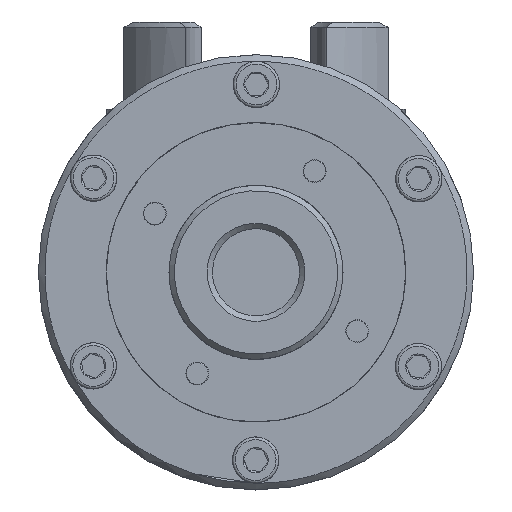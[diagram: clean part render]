
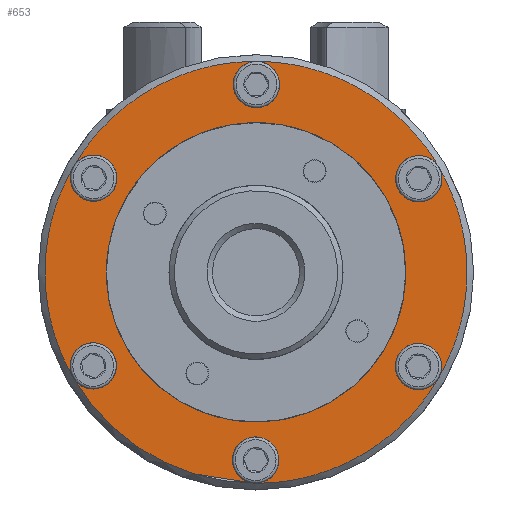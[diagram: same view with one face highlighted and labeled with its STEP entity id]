
A CAD part, left-side view. The second image highlights one B-rep face of the part: STEP entity #653.
In plain terms, the highlighted planar face has unit normal (-1, 0, 0).
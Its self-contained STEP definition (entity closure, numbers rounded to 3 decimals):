
#653 = ADVANCED_FACE( '', ( #1336, #1337 ), #1338, .F. );
#1336 = FACE_OUTER_BOUND( '', #2425, .T. );
#1337 = FACE_BOUND( '', #2426, .T. );
#1338 = PLANE( '', #2427 );
#2425 = EDGE_LOOP( '', ( #3724, #3725, #3726, #3727, #3728, #3729, #3730, #3731, #3732, #3733, #3734, #3735 ) );
#2426 = EDGE_LOOP( '', ( #3736 ) );
#2427 = AXIS2_PLACEMENT_3D( '', #3737, #3738, #3739 );
#3724 = ORIENTED_EDGE( '', *, *, #6264, .T. );
#3725 = ORIENTED_EDGE( '', *, *, #6257, .T. );
#3726 = ORIENTED_EDGE( '', *, *, #6265, .T. );
#3727 = ORIENTED_EDGE( '', *, *, #6256, .T. );
#3728 = ORIENTED_EDGE( '', *, *, #6262, .T. );
#3729 = ORIENTED_EDGE( '', *, *, #6261, .T. );
#3730 = ORIENTED_EDGE( '', *, *, #6266, .T. );
#3731 = ORIENTED_EDGE( '', *, *, #6260, .T. );
#3732 = ORIENTED_EDGE( '', *, *, #6267, .T. );
#3733 = ORIENTED_EDGE( '', *, *, #6259, .T. );
#3734 = ORIENTED_EDGE( '', *, *, #6268, .T. );
#3735 = ORIENTED_EDGE( '', *, *, #6258, .T. );
#3736 = ORIENTED_EDGE( '', *, *, #6254, .F. );
#3737 = CARTESIAN_POINT( '', ( -13.499, 40., 0. ) );
#3738 = DIRECTION( '', ( 1., 0., 0. ) );
#3739 = DIRECTION( '', ( 0., 1., 0. ) );
#6254 = EDGE_CURVE( '', #7152, #7152, #7153, .F. );
#6256 = EDGE_CURVE( '', #7156, #7157, #7158, .F. );
#6257 = EDGE_CURVE( '', #7159, #7156, #7160, .F. );
#6258 = EDGE_CURVE( '', #7161, #7159, #7162, .F. );
#6259 = EDGE_CURVE( '', #7163, #7161, #7164, .F. );
#6260 = EDGE_CURVE( '', #7165, #7163, #7166, .F. );
#6261 = EDGE_CURVE( '', #7157, #7165, #7167, .F. );
#6262 = EDGE_CURVE( '', #7157, #7157, #7168, .T. );
#6264 = EDGE_CURVE( '', #7159, #7159, #7171, .T. );
#6265 = EDGE_CURVE( '', #7156, #7156, #7172, .T. );
#6266 = EDGE_CURVE( '', #7165, #7165, #7173, .T. );
#6267 = EDGE_CURVE( '', #7163, #7163, #7174, .T. );
#6268 = EDGE_CURVE( '', #7161, #7161, #7175, .T. );
#7152 = VERTEX_POINT( '', #8722 );
#7153 = CIRCLE( '', #8723, 27.5 );
#7156 = VERTEX_POINT( '', #8726 );
#7157 = VERTEX_POINT( '', #8727 );
#7158 = CIRCLE( '', #8728, 38.75 );
#7159 = VERTEX_POINT( '', #8729 );
#7160 = CIRCLE( '', #8730, 38.75 );
#7161 = VERTEX_POINT( '', #8731 );
#7162 = CIRCLE( '', #8732, 38.75 );
#7163 = VERTEX_POINT( '', #8733 );
#7164 = CIRCLE( '', #8734, 38.75 );
#7165 = VERTEX_POINT( '', #8735 );
#7166 = CIRCLE( '', #8736, 38.75 );
#7167 = CIRCLE( '', #8737, 38.75 );
#7168 = CIRCLE( '', #8738, 4.25 );
#7171 = CIRCLE( '', #8741, 4.25 );
#7172 = CIRCLE( '', #8742, 4.25 );
#7173 = CIRCLE( '', #8743, 4.25 );
#7174 = CIRCLE( '', #8744, 4.25 );
#7175 = CIRCLE( '', #8745, 4.25 );
#8722 = CARTESIAN_POINT( '', ( -13.499, 0., -27.5 ) );
#8723 = AXIS2_PLACEMENT_3D( '', #10906, #10907, #10908 );
#8726 = CARTESIAN_POINT( '', ( -13.499, 33.558, 19.375 ) );
#8727 = CARTESIAN_POINT( '', ( -13.499, 33.558, -19.375 ) );
#8728 = AXIS2_PLACEMENT_3D( '', #10912, #10913, #10914 );
#8729 = CARTESIAN_POINT( '', ( -13.499, 0., 38.75 ) );
#8730 = AXIS2_PLACEMENT_3D( '', #10915, #10916, #10917 );
#8731 = CARTESIAN_POINT( '', ( -13.499, -33.558, 19.375 ) );
#8732 = AXIS2_PLACEMENT_3D( '', #10918, #10919, #10920 );
#8733 = CARTESIAN_POINT( '', ( -13.499, -33.558, -19.375 ) );
#8734 = AXIS2_PLACEMENT_3D( '', #10921, #10922, #10923 );
#8735 = CARTESIAN_POINT( '', ( -13.499, 0., -38.75 ) );
#8736 = AXIS2_PLACEMENT_3D( '', #10924, #10925, #10926 );
#8737 = AXIS2_PLACEMENT_3D( '', #10927, #10928, #10929 );
#8738 = AXIS2_PLACEMENT_3D( '', #10930, #10931, #10932 );
#8741 = AXIS2_PLACEMENT_3D( '', #10936, #10937, #10938 );
#8742 = AXIS2_PLACEMENT_3D( '', #10939, #10940, #10941 );
#8743 = AXIS2_PLACEMENT_3D( '', #10942, #10943, #10944 );
#8744 = AXIS2_PLACEMENT_3D( '', #10945, #10946, #10947 );
#8745 = AXIS2_PLACEMENT_3D( '', #10948, #10949, #10950 );
#10906 = CARTESIAN_POINT( '', ( -13.499, 0., 0. ) );
#10907 = DIRECTION( '', ( 1., 0., 0. ) );
#10908 = DIRECTION( '', ( 0., 0., -1. ) );
#10912 = CARTESIAN_POINT( '', ( -13.499, 0., 0. ) );
#10913 = DIRECTION( '', ( 1., 0., 0. ) );
#10914 = DIRECTION( '', ( 0., 0., -1. ) );
#10915 = CARTESIAN_POINT( '', ( -13.499, 0., 0. ) );
#10916 = DIRECTION( '', ( 1., 0., 0. ) );
#10917 = DIRECTION( '', ( 0., 0., -1. ) );
#10918 = CARTESIAN_POINT( '', ( -13.499, 0., 0. ) );
#10919 = DIRECTION( '', ( 1., 0., 0. ) );
#10920 = DIRECTION( '', ( 0., 0., -1. ) );
#10921 = CARTESIAN_POINT( '', ( -13.499, 0., 0. ) );
#10922 = DIRECTION( '', ( 1., 0., 0. ) );
#10923 = DIRECTION( '', ( 0., 0., -1. ) );
#10924 = CARTESIAN_POINT( '', ( -13.499, 0., 0. ) );
#10925 = DIRECTION( '', ( 1., 0., 0. ) );
#10926 = DIRECTION( '', ( 0., 0., -1. ) );
#10927 = CARTESIAN_POINT( '', ( -13.499, 0., 0. ) );
#10928 = DIRECTION( '', ( 1., 0., 0. ) );
#10929 = DIRECTION( '', ( 0., 0., -1. ) );
#10930 = CARTESIAN_POINT( '', ( -13.499, 29.878, -17.25 ) );
#10931 = DIRECTION( '', ( 1., 0., 0. ) );
#10932 = DIRECTION( '', ( 0., 0., -1. ) );
#10936 = CARTESIAN_POINT( '', ( -13.499, 0., 34.5 ) );
#10937 = DIRECTION( '', ( 1., 0., 0. ) );
#10938 = DIRECTION( '', ( 0., 0., -1. ) );
#10939 = CARTESIAN_POINT( '', ( -13.499, 29.878, 17.25 ) );
#10940 = DIRECTION( '', ( 1., 0., 0. ) );
#10941 = DIRECTION( '', ( 0., 0., -1. ) );
#10942 = CARTESIAN_POINT( '', ( -13.499, 0., -34.5 ) );
#10943 = DIRECTION( '', ( 1., 0., 0. ) );
#10944 = DIRECTION( '', ( 0., 0., -1. ) );
#10945 = CARTESIAN_POINT( '', ( -13.499, -29.878, -17.25 ) );
#10946 = DIRECTION( '', ( 1., 0., 0. ) );
#10947 = DIRECTION( '', ( 0., 0., -1. ) );
#10948 = CARTESIAN_POINT( '', ( -13.499, -29.878, 17.25 ) );
#10949 = DIRECTION( '', ( 1., 0., 0. ) );
#10950 = DIRECTION( '', ( 0., 0., -1. ) );
